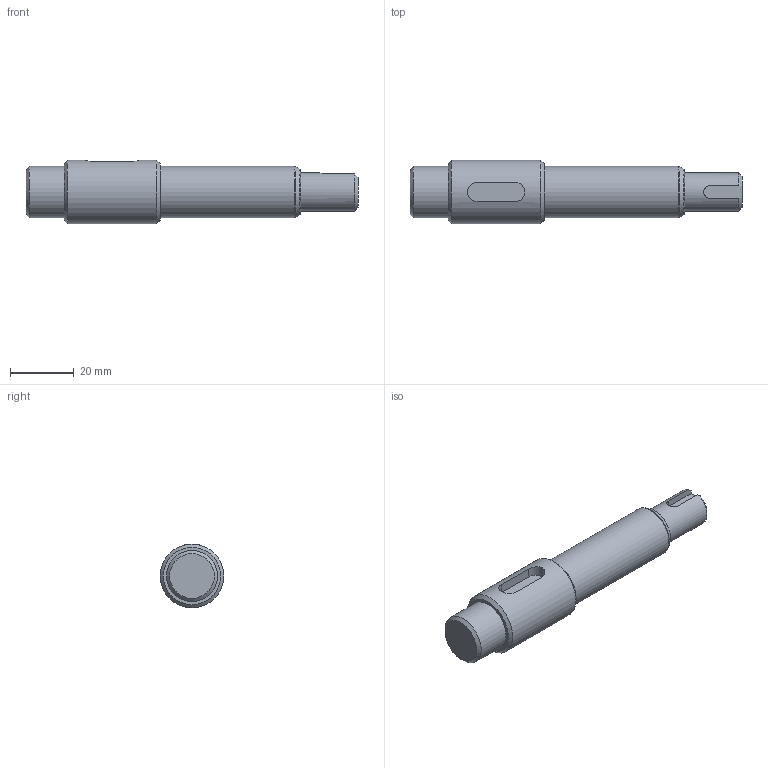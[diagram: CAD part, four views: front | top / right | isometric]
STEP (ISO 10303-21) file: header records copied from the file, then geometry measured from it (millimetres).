
FILE_DESCRIPTION(/* description */ (''),/* implementation_level */ '2;1');
FILE_NAME(/* name */ 'C:\Users\8호실-1\Desktop\390409E1004\390409E1004 메인 축.stp',/* time_stamp */ '2019-04-13T10:31:06+09:00',/* author */ ('8호실-1'),/* organization */ (''),/* preprocessor_version */ 'ST-DEVELOPER v15.6',/* originating_system */ 'Autodesk Inventor 2015',/* authorisation */ '');
FILE_SCHEMA (('AUTOMOTIVE_DESIGN { 1 0 10303 214 3 1 1 }'));
Length unit declared in the file: millimetre
Products named in the file (1): 메인 축
Bounding box: 104 x 20 x 20 mm (x, y, z)
Volume: 22129.6 mm3; surface area: 6015.6 mm2
Topology: 1 solids, 1 shells, 25 faces, 54 edges, 35 vertices
Faces by surface type: plane 11, cylinder 7, cone 5, torus 2
Full cylindrical faces by diameter (mm): 12 x1, 16 x2, 20 x1
Entity records: 687 total; most frequent: CARTESIAN_POINT 161, DIRECTION 105, ORIENTED_EDGE 86, AXIS2_PLACEMENT_3D 44, EDGE_CURVE 43, EDGE_LOOP 39, VERTEX_POINT 34, FACE_OUTER_BOUND 25
